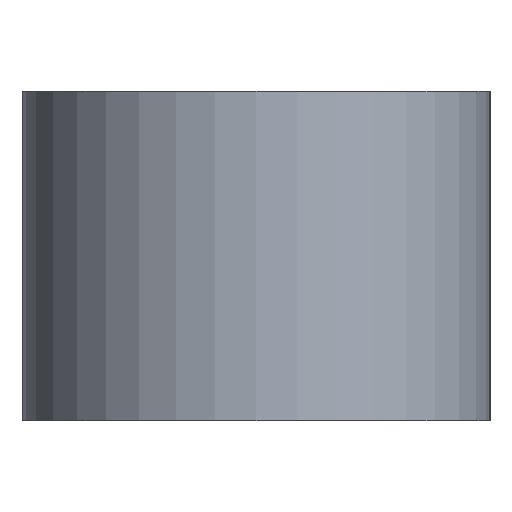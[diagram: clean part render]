
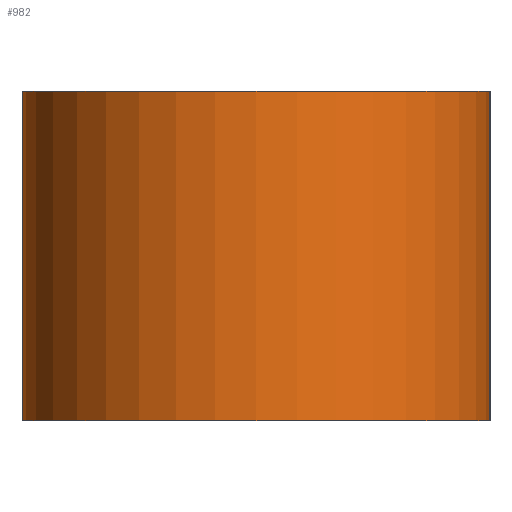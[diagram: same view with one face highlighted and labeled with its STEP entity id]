
A CAD part, left-side view. The second image highlights one B-rep face of the part: STEP entity #982.
In plain terms, the highlighted cylindrical face has radius 7.104 mm (diameter 14.208 mm), a partial arc.
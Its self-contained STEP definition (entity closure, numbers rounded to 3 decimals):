
#37 = DIRECTION ( 'NONE',  ( 0., 0., -1. ) ) ;
#48 = CYLINDRICAL_SURFACE ( 'NONE', #951, 7.104 ) ;
#87 = FACE_OUTER_BOUND ( 'NONE', #933, .T. ) ;
#98 = CARTESIAN_POINT ( 'NONE',  ( 0., 7.104, 5. ) ) ;
#113 = DIRECTION ( 'NONE',  ( 0., 0., -1. ) ) ;
#210 = EDGE_CURVE ( 'NONE', #997, #1081, #1101, .T. ) ;
#213 = CARTESIAN_POINT ( 'NONE',  ( 0., 0., 5. ) ) ;
#257 = VECTOR ( 'NONE', #37, 1000. ) ;
#269 = CIRCLE ( 'NONE', #326, 7.104 ) ;
#326 = AXIS2_PLACEMENT_3D ( 'NONE', #1427, #836, #962 ) ;
#338 = DIRECTION ( 'NONE',  ( -1., 0., 0. ) ) ;
#368 = EDGE_CURVE ( 'NONE', #1081, #833, #776, .T. ) ;
#429 = ORIENTED_EDGE ( 'NONE', *, *, #967, .F. ) ;
#528 = VECTOR ( 'NONE', #909, 1000. ) ;
#618 = CARTESIAN_POINT ( 'NONE',  ( 0., 7.104, -5. ) ) ;
#659 = AXIS2_PLACEMENT_3D ( 'NONE', #1533, #805, #935 ) ;
#676 = CARTESIAN_POINT ( 'NONE',  ( 0., -7.104, -5. ) ) ;
#697 = ORIENTED_EDGE ( 'NONE', *, *, #210, .T. ) ;
#776 = CIRCLE ( 'NONE', #659, 7.104 ) ;
#791 = ORIENTED_EDGE ( 'NONE', *, *, #368, .T. ) ;
#795 = CARTESIAN_POINT ( 'NONE',  ( 0., -7.104, 5. ) ) ;
#805 = DIRECTION ( 'NONE',  ( 0., 0., 1. ) ) ;
#833 = VERTEX_POINT ( 'NONE', #676 ) ;
#836 = DIRECTION ( 'NONE',  ( 0., 0., 1. ) ) ;
#909 = DIRECTION ( 'NONE',  ( 0., 0., -1. ) ) ;
#928 = CARTESIAN_POINT ( 'NONE',  ( 0., -7.104, 5. ) ) ;
#933 = EDGE_LOOP ( 'NONE', ( #791, #1508, #429, #697 ) ) ;
#935 = DIRECTION ( 'NONE',  ( -1., 0., 0. ) ) ;
#951 = AXIS2_PLACEMENT_3D ( 'NONE', #213, #113, #338 ) ;
#962 = DIRECTION ( 'NONE',  ( -1., 0., 0. ) ) ;
#967 = EDGE_CURVE ( 'NONE', #997, #1294, #269, .T. ) ;
#982 = ADVANCED_FACE ( 'NONE', ( #87 ), #48, .T. ) ;
#997 = VERTEX_POINT ( 'NONE', #98 ) ;
#1081 = VERTEX_POINT ( 'NONE', #618 ) ;
#1101 = LINE ( 'NONE', #1264, #257 ) ;
#1115 = EDGE_CURVE ( 'NONE', #1294, #833, #1233, .T. ) ;
#1233 = LINE ( 'NONE', #795, #528 ) ;
#1264 = CARTESIAN_POINT ( 'NONE',  ( 0., 7.104, 5. ) ) ;
#1294 = VERTEX_POINT ( 'NONE', #928 ) ;
#1427 = CARTESIAN_POINT ( 'NONE',  ( 0., 0., 5. ) ) ;
#1508 = ORIENTED_EDGE ( 'NONE', *, *, #1115, .F. ) ;
#1533 = CARTESIAN_POINT ( 'NONE',  ( 0., 0., -5. ) ) ;
